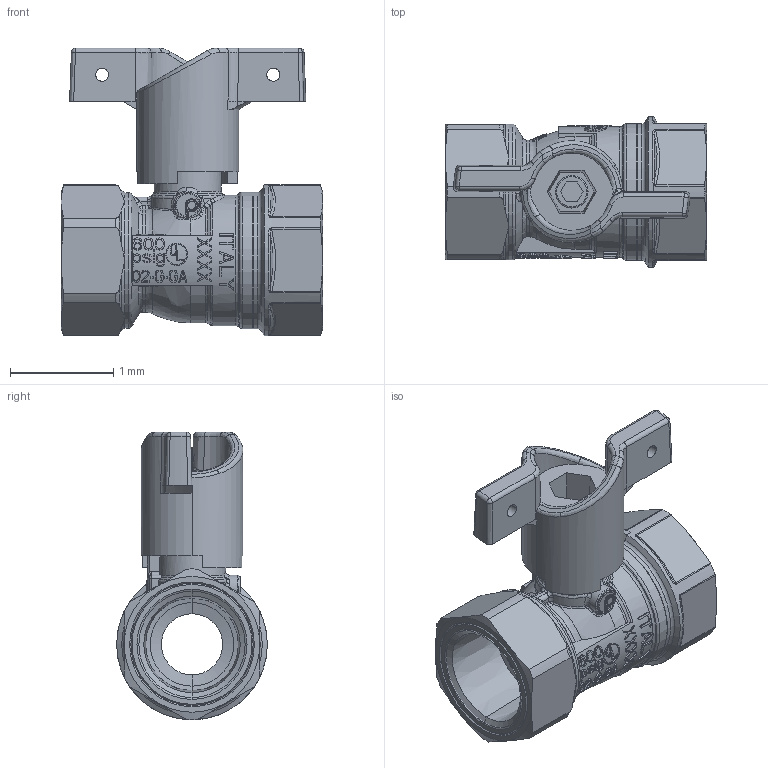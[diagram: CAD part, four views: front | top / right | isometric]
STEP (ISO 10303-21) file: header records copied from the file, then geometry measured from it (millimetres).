
FILE_DESCRIPTION(('Open CASCADE Model'),'2;1');
FILE_NAME('Open CASCADE Shape Model','2022-05-31T07:53:41',('Author'),( 'Open CASCADE'),'Open CASCADE STEP processor 7.3','Open CASCADE 7.3' ,'Unknown');
FILE_SCHEMA(('AUTOMOTIVE_DESIGN { 1 0 10303 214 1 1 1 1 }'));
Length unit declared in the file: millimetre
Products named in the file (15): Open CASCADE STEP translator 7.3 1; Open CASCADE STEP translator 7.3 1.1; Open CASCADE STEP translator 7.3 1.2; Open CASCADE STEP translator 7.3 1.3; Open CASCADE STEP translator 7.3 1.4; Open CASCADE STEP translator 7.3 1.5; Open CASCADE STEP translator 7.3 1.6; Open CASCADE STEP translator 7.3 1.7; Open CASCADE STEP translator 7.3 1.8; Open CASCADE STEP translator 7.3 1.9; Open CASCADE STEP translator 7.3 1.10; Open CASCADE STEP translator 7.3 1.11; Open CASCADE STEP translator 7.3 1.12; Open CASCADE STEP translator 7.3 1.13; Open CASCADE STEP translator 7.3 1.14
Assembly tree (14 placements, depth 2):
  Open CASCADE STEP translator 7.3 1
    Open CASCADE STEP translator 7.3 1.1
    Open CASCADE STEP translator 7.3 1.2
    Open CASCADE STEP translator 7.3 1.3
    Open CASCADE STEP translator 7.3 1.4
    Open CASCADE STEP translator 7.3 1.5
    Open CASCADE STEP translator 7.3 1.6
    Open CASCADE STEP translator 7.3 1.7
    Open CASCADE STEP translator 7.3 1.8
    Open CASCADE STEP translator 7.3 1.9
    Open CASCADE STEP translator 7.3 1.10
    Open CASCADE STEP translator 7.3 1.11
    Open CASCADE STEP translator 7.3 1.12
    Open CASCADE STEP translator 7.3 1.13
    Open CASCADE STEP translator 7.3 1.14
Bounding box: 2.53 x 1.46 x 2.78 mm (x, y, z)
Volume: 3 mm3; surface area: 48.8 mm2
Topology: 8 solids, 14 shells, 1700 faces, 4561 edges, 2953 vertices
Faces by surface type: bspline 823, plane 474, cylinder 198, cone 101, torus 94, sphere 10
Entity records: 161548 total; most frequent: CARTESIAN_POINT 85913, ORIENTED_EDGE 9092, PCURVE 9092, DEFINITIONAL_REPRESENTATION 9092, DIRECTION 8737, B_SPLINE_CURVE_WITH_KNOTS 7527, LINE 4692, VECTOR 4692
